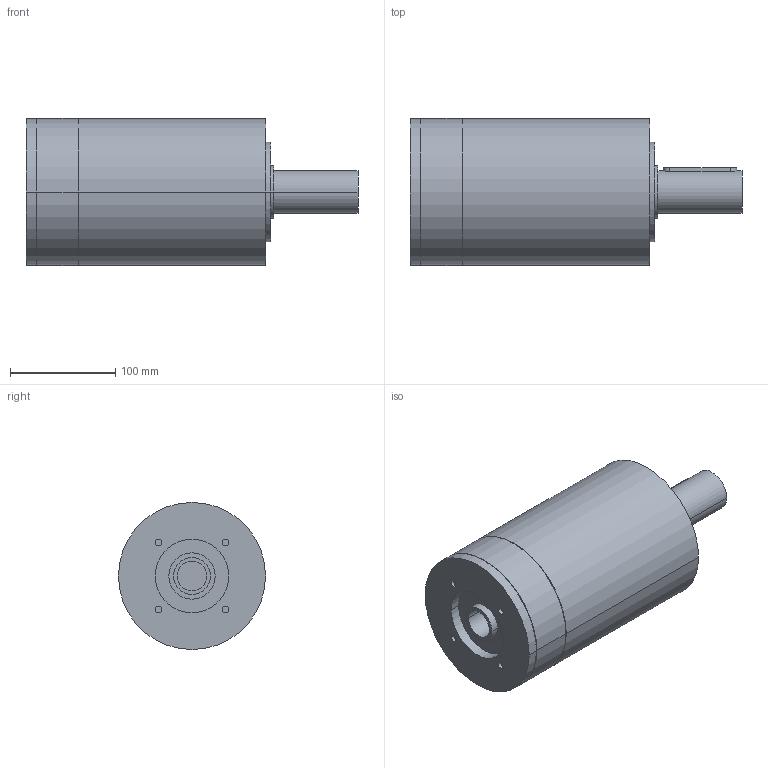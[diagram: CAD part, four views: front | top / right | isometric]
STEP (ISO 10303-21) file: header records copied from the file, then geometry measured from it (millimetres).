
FILE_DESCRIPTION(('CoCreate Modeling STEP Export'),'2;1');
FILE_NAME('GPR150_ig-9-12-16-20-28-35_40_B14_28_P15.stp','2014-08-19T17:03:53',(''),(''),'CoCreate Modeling STEP processor for AP214 (Solid Model)','CoCreate Modeling 16.00C 25-Feb-2009 (C) Parametric Technology GmbH','');
FILE_SCHEMA(('AUTOMOTIVE_DESIGN { 1 0 10303 214 1 1 1 1 }'));
Length unit declared in the file: millimetre
Products named in the file (2): GPR150_ig-9-12-16-20-28-35_40_B14_28_P15
Assembly tree (1 placements, depth 2):
  GPR150_ig-9-12-16-20-28-35_40_B14_28_P15
    GPR150_ig-9-12-16-20-28-35_40_B14_28_P15
Bounding box: 316 x 140 x 140 mm (x, y, z)
Volume: 3558953.5 mm3; surface area: 160487.7 mm2
Topology: 1 solids, 1 shells, 80 faces, 198 edges, 140 vertices
Faces by surface type: cylinder 48, plane 26, cone 6
Entity records: 2030 total; most frequent: ORIENTED_EDGE 392, CARTESIAN_POINT 389, DIRECTION 262, EDGE_CURVE 196, VERTEX_POINT 140, EDGE_LOOP 102, AXIS2_PLACEMENT_3D 101, FACE_OUTER_BOUND 80
